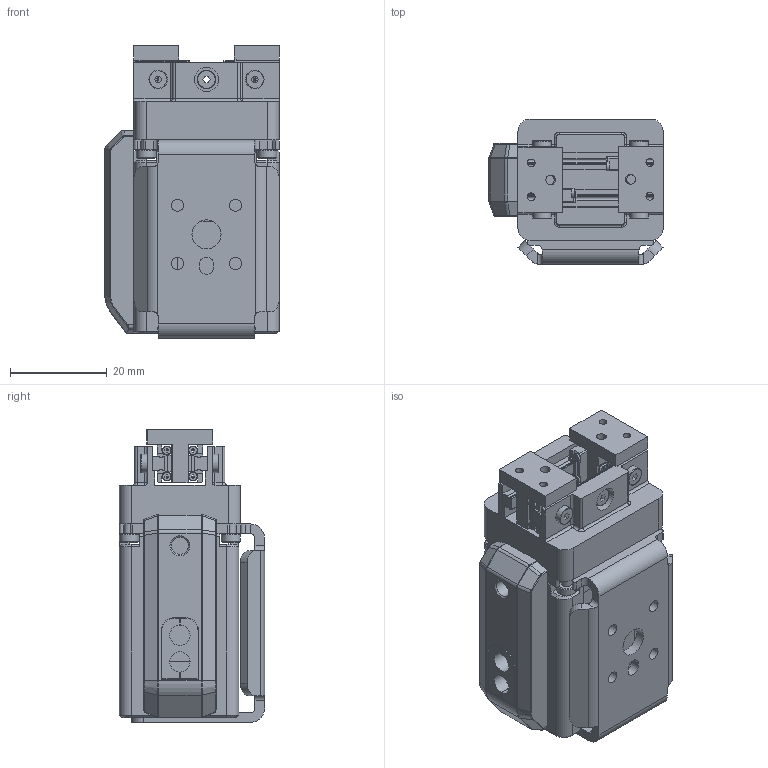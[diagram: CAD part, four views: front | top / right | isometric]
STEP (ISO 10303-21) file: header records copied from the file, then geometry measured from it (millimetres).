
FILE_DESCRIPTION (( 'STEP AP203' ), '1' );
FILE_NAME ('CHB6-S11.STEP', '2020-09-25T02:02:03', ( '' ), ( '' ), 'SwSTEP 2.0', 'SolidWorks 2019', '' );
FILE_SCHEMA (( 'CONFIG_CONTROL_DESIGN' ));
Length unit declared in the file: millimetre
Products named in the file (2): CHB6-S11
Bounding box: 36 x 30 x 60.5 mm (x, y, z)
Surface area: 17640 mm2 (no closed solid volume)
Topology: 0 solids, 42 shells, 608 faces, 2246 edges, 1651 vertices
Faces by surface type: plane 377, cylinder 166, bspline 34, cone 27, torus 4
Full cylindrical faces by diameter (mm): 1.6 x4, 1.8 x8, 2 x2, 2.25 x4, 2.4 x4, 2.5 x8, 3.5 x1, 3.8 x4, 4 x4, 5 x2, 6 x2
Entity records: 27680 total; most frequent: CARTESIAN_POINT 9467, DIRECTION 3490, ORIENTED_EDGE 3365, EDGE_CURVE 2161, VERTEX_POINT 1640, LINE 1516, VECTOR 1516, AXIS2_PLACEMENT_3D 987
